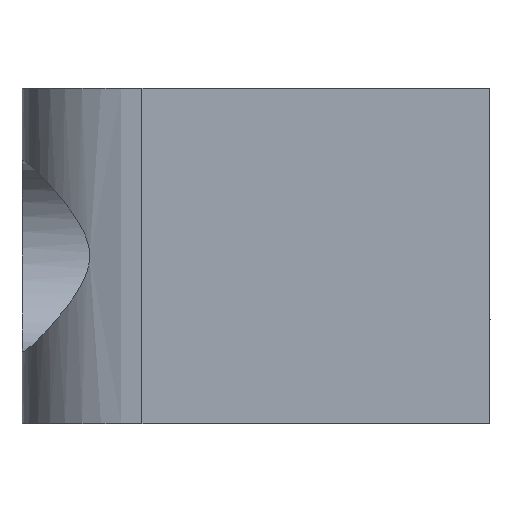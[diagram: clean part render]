
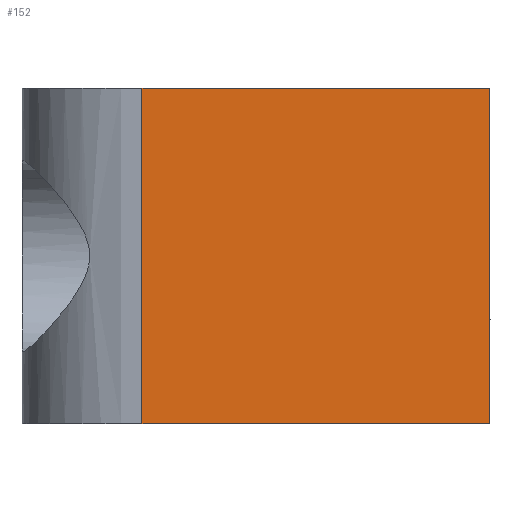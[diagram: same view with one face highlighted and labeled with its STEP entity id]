
A CAD part, front view. The second image highlights one B-rep face of the part: STEP entity #152.
In plain terms, the highlighted planar face has unit normal (0, -1, 0).
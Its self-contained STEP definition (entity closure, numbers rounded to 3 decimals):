
#152=ADVANCED_FACE('',(#179),#169,.T.);
#169=PLANE('',#420);
#179=FACE_OUTER_BOUND('',#189,.T.);
#189=EDGE_LOOP('',(#235,#236,#237,#238));
#235=ORIENTED_EDGE('',*,*,#344,.T.);
#236=ORIENTED_EDGE('',*,*,#345,.T.);
#237=ORIENTED_EDGE('',*,*,#346,.F.);
#238=ORIENTED_EDGE('',*,*,#342,.F.);
#307=VERTEX_POINT('',#583);
#308=VERTEX_POINT('',#585);
#309=VERTEX_POINT('',#589);
#310=VERTEX_POINT('',#591);
#342=EDGE_CURVE('',#307,#308,#378,.T.);
#344=EDGE_CURVE('',#307,#309,#380,.T.);
#345=EDGE_CURVE('',#309,#310,#381,.T.);
#346=EDGE_CURVE('',#308,#310,#382,.T.);
#378=LINE('',#584,#400);
#380=LINE('',#588,#402);
#381=LINE('',#590,#403);
#382=LINE('',#592,#404);
#400=VECTOR('',#473,1.);
#402=VECTOR('',#477,1.);
#403=VECTOR('',#478,1.);
#404=VECTOR('',#479,1.);
#420=AXIS2_PLACEMENT_3D('',#593,#480,#481);
#473=DIRECTION('',(0.,0.,-1.));
#477=DIRECTION('',(-1.,0.,0.));
#478=DIRECTION('',(0.,0.,-1.));
#479=DIRECTION('',(-1.,0.,0.));
#480=DIRECTION('',(0.,-1.,0.));
#481=DIRECTION('',(1.,0.,0.));
#583=CARTESIAN_POINT('',(-17.,44.,14.));
#584=CARTESIAN_POINT('',(-17.,44.,14.));
#585=CARTESIAN_POINT('',(-17.,44.,0.));
#588=CARTESIAN_POINT('',(-17.,44.,14.));
#589=CARTESIAN_POINT('',(-31.5,44.,14.));
#590=CARTESIAN_POINT('',(-31.5,44.,14.));
#591=CARTESIAN_POINT('',(-31.5,44.,0.));
#592=CARTESIAN_POINT('',(-17.,44.,0.));
#593=CARTESIAN_POINT('',(-17.,44.,14.));
